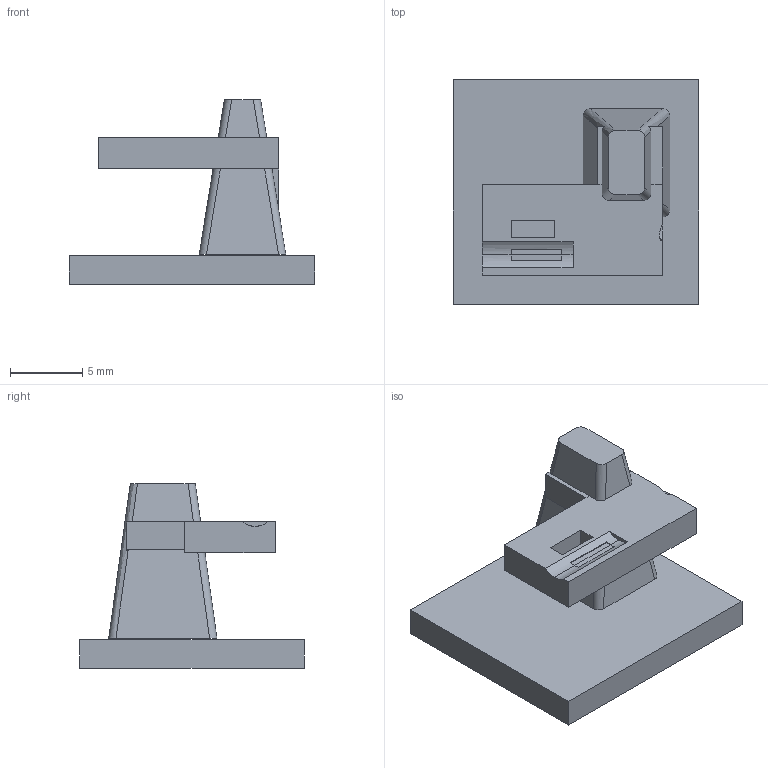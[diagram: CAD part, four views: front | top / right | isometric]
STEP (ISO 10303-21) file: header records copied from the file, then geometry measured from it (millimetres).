
FILE_DESCRIPTION(('Open CASCADE Model'),'2;1');
FILE_NAME('Open CASCADE Shape Model','2026-09-15T14:55:53',('Author'),( 'Open CASCADE'),'Open CASCADE STEP processor 7.7','Open CASCADE 7.7' ,'Unknown');
FILE_SCHEMA(('AUTOMOTIVE_DESIGN { 1 0 10303 214 1 1 1 1 }'));
Length unit declared in the file: millimetre
Products named in the file (1): COMPOUND
Bounding box: 17 x 15.55 x 12.81 mm (x, y, z)
Volume: 969.3 mm3; surface area: 1119.5 mm2
Topology: 1 solids, 1 shells, 55 faces, 144 edges, 93 vertices
Faces by surface type: plane 38, bspline 13, cylinder 3, torus 1
Entity records: 4309 total; most frequent: CARTESIAN_POINT 1572, DIRECTION 440, LINE 298, VECTOR 298, ORIENTED_EDGE 288, PCURVE 288, DEFINITIONAL_REPRESENTATION 288, EDGE_CURVE 144
